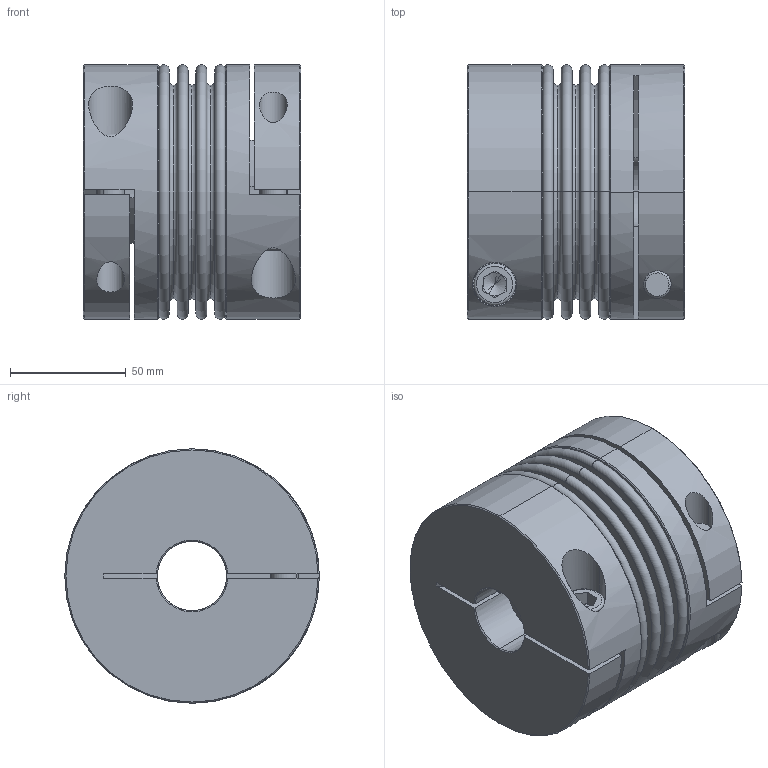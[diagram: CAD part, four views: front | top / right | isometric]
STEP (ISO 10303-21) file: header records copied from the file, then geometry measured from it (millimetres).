
FILE_DESCRIPTION (( 'STEP AP214' ), '1' );
FILE_NAME ('KB4C-300-94.STEP', '2011-01-19T18:02:13', ( '' ), ( 'KAPCAD' ), 'SwSTEP 2.0', 'SolidWorks 2002296', '' );
FILE_SCHEMA (( 'AUTOMOTIVE_DESIGN' ));
Length unit declared in the file: millimetre
Products named in the file (4): KB4C-300-94; KN300C_Standard; BK300_Standard; Socket Head Cap Screw_DIN_DIN 912 M12 x 40 --- 40N
Assembly tree (5 placements, depth 2):
  KB4C-300-94
    Socket Head Cap Screw_DIN_DIN 912 M12 x 40 --- 40N  x2
    BK300_Standard
    KN300C_Standard  x2
Bounding box: 93.95 x 110 x 110 mm (x, y, z)
Volume: 558674.8 mm3; surface area: 154026.1 mm2
Topology: 5 solids, 5 shells, 182 faces, 412 edges, 256 vertices
Faces by surface type: plane 66, torus 48, cylinder 44, cone 24
Entity records: 3797 total; most frequent: CARTESIAN_POINT 777, DIRECTION 710, ORIENTED_EDGE 540, AXIS2_PLACEMENT_3D 319, EDGE_CURVE 270, CIRCLE 187, VERTEX_POINT 170, EDGE_LOOP 150
